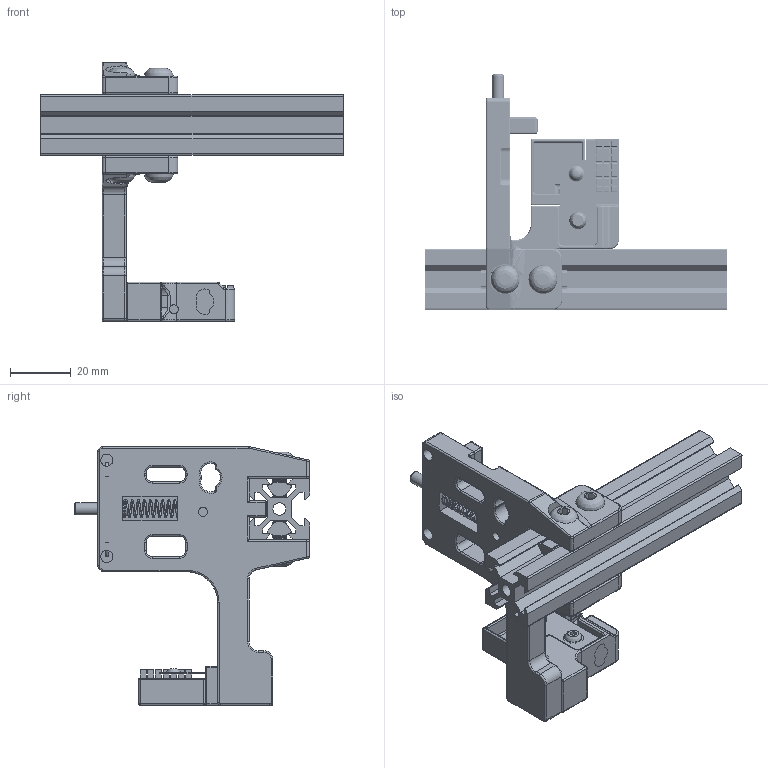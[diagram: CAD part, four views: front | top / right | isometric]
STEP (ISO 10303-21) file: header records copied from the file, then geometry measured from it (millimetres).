
FILE_DESCRIPTION(/* description */ (''),/* implementation_level */ '2;1');
FILE_NAME(/* name */ 'Lineux Stealth r2t Dock v8.step',/* time_stamp */ '2026-01-29T10:16:19+07:00',/* author */ (''),/* organization */ (''),/* preprocessor_version */ 'ST-DEVELOPER v20.1',/* originating_system */ 'Autodesk Translation Framework v14.24.0.0',/* authorisation */ '');
FILE_SCHEMA (('AUTOMOTIVE_DESIGN { 1 0 10303 214 3 1 1 }'));
Products named in the file (38): Lineux Stealth r2t Dock; r2t Dock; r2t Dock (1); Hardware (3); m3 x 6mm bhcs (1) (3); 2020 Drop-in T-nut, M5; 2020 Drop-in T-nut, M5_1; m5 x 12mm bhcs (3) (3); m5 x 12mm bhcs (2) (3); m5 x 12mm bhcs (1) (3); m5 x 12mm bhcs (6); spring OD6 ID5 20mm (1) (5); m3 x OD4 16mm threaded dowel pin (1) (5); m3 heat insert (1) (3); 6 x 3mm n52 magnet (1) (3); 8 x 5mm n52 magnet (2) (4); 8 x 5mm n52 magnet (3) (3); 2020 Drop-in T-nut, M5_2; 2020 Drop-in T-nut, M5_3; Wire (1) (5); r2t_dock (1); Nozzle Blocker (5); Drip Tray; 6x3mm magnet (2); 6x3mm magnet (3); [a]_drip_tray; Nozzle Blocker; Bambulab A1 Brush; nozzle_blocker_mount; 6x3mm magnet; m3 washer; AA battery terminal; m3 x 10mm bhcs; m3 hex nut; 6x3mm magnet (1); m3 x 10mm bhcs (1); [a]_logo_nb; 2020 Extrusion (5)
Assembly tree (37 placements, depth 5):
  Lineux Stealth r2t Dock
    r2t Dock
      r2t Dock (1)
        Hardware (3)
          m3 x 6mm bhcs (1) (3)
          2020 Drop-in T-nut, M5
          2020 Drop-in T-nut, M5_1
          m5 x 12mm bhcs (3) (3)
          m5 x 12mm bhcs (2) (3)
          m5 x 12mm bhcs (1) (3)
          m5 x 12mm bhcs (6)
          spring OD6 ID5 20mm (1) (5)
          m3 x OD4 16mm threaded dowel pin (1) (5)
          m3 heat insert (1) (3)
          6 x 3mm n52 magnet (1) (3)
          8 x 5mm n52 magnet (2) (4)
          8 x 5mm n52 magnet (3) (3)
          2020 Drop-in T-nut, M5_2
          2020 Drop-in T-nut, M5_3
          Wire (1) (5)
        r2t_dock (1)
      Nozzle Blocker (5)
        Drip Tray
          6x3mm magnet (2)
          6x3mm magnet (3)
          [a]_drip_tray
        Nozzle Blocker
          Bambulab A1 Brush
          nozzle_blocker_mount
          6x3mm magnet
          m3 washer
          AA battery terminal
          m3 x 10mm bhcs
          m3 hex nut
          6x3mm magnet (1)
          m3 x 10mm bhcs (1)
          [a]_logo_nb
      2020 Extrusion (5)
Bounding box: 100 x 77.7 x 85.52 mm (x, y, z)
Volume: 55937 mm3; surface area: 43412.5 mm2
Topology: 35 solids, 35 shells, 1645 faces, 4276 edges, 2698 vertices
Faces by surface type: cylinder 757, plane 533, bspline 222, torus 63, sphere 42, cone 28
Full cylindrical faces by diameter (mm): 2 x1, 2.356 x52, 2.5 x5, 2.529 x11, 2.729 x1, 2.927 x49, 3 x8, 3.086 x5, 3.4 x2, 3.99 x16, 4 x3, 4.145 x2, 4.2 x2, 4.7 x1, 4.901 x36, 5.12 x12, 5.5 x4, 5.7 x3, 6 x5, 6.1 x1, 6.7 x1, 7 x1, 8 x2, 10 x2
Entity records: 108002 total; most frequent: CARTESIAN_POINT 69122, ORIENTED_EDGE 8476, DIRECTION 7037, EDGE_CURVE 4238, VERTEX_POINT 2697, AXIS2_PLACEMENT_3D 2570, LINE 1897, VECTOR 1897
